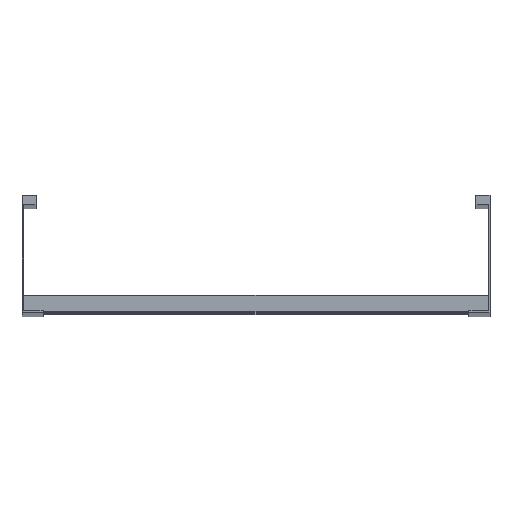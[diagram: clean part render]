
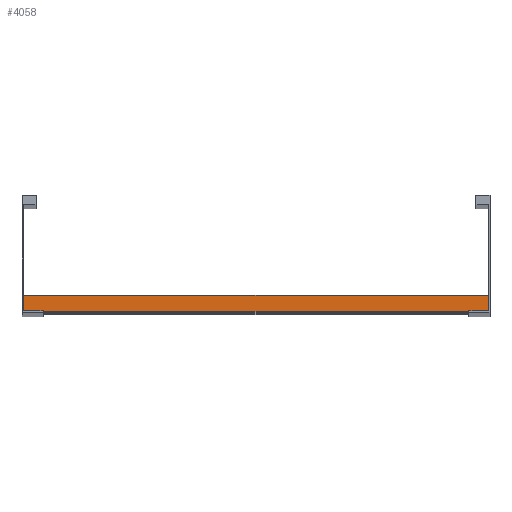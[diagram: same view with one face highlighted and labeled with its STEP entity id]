
A CAD part, top view. The second image highlights one B-rep face of the part: STEP entity #4058.
In plain terms, the highlighted planar face has unit normal (0, 0, 1).
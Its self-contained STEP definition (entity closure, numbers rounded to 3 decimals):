
#156 = ORIENTED_EDGE ( 'NONE', *, *, #9871, .F. ) ;
#276 = DIRECTION ( 'NONE',  ( 0., 0., -1. ) ) ;
#663 = CARTESIAN_POINT ( 'NONE',  ( 298., 20., 20.25 ) ) ;
#777 = LINE ( 'NONE', #663, #1261 ) ;
#1097 = PLANE ( 'NONE',  #5199 ) ;
#1113 = ORIENTED_EDGE ( 'NONE', *, *, #10097, .T. ) ;
#1261 = VECTOR ( 'NONE', #10492, 1000. ) ;
#1642 = VECTOR ( 'NONE', #3335, 1000. ) ;
#1688 = VECTOR ( 'NONE', #5431, 1000. ) ;
#1965 = CARTESIAN_POINT ( 'NONE',  ( 298., 20., 20.25 ) ) ;
#1996 = DIRECTION ( 'NONE',  ( -1., 0., 0. ) ) ;
#2401 = VECTOR ( 'NONE', #1996, 1000. ) ;
#2556 = ORIENTED_EDGE ( 'NONE', *, *, #4713, .T. ) ;
#3335 = DIRECTION ( 'NONE',  ( 0., -1., 0. ) ) ;
#3390 = CARTESIAN_POINT ( 'NONE',  ( 298., 20., 20.25 ) ) ;
#3775 = VERTEX_POINT ( 'NONE', #3390 ) ;
#4058 = ADVANCED_FACE ( 'NONE', ( #6564 ), #1097, .F. ) ;
#4170 = CARTESIAN_POINT ( 'NONE',  ( 298., 0., 20.25 ) ) ;
#4414 = VERTEX_POINT ( 'NONE', #4909 ) ;
#4664 = CARTESIAN_POINT ( 'NONE',  ( 298., 20., 20.25 ) ) ;
#4713 = EDGE_CURVE ( 'NONE', #3775, #5924, #8861, .T. ) ;
#4909 = CARTESIAN_POINT ( 'NONE',  ( -298., 0., 20.25 ) ) ;
#5199 = AXIS2_PLACEMENT_3D ( 'NONE', #1965, #276, #5572 ) ;
#5431 = DIRECTION ( 'NONE',  ( -1., 0., 0. ) ) ;
#5572 = DIRECTION ( 'NONE',  ( 0., 1., 0. ) ) ;
#5835 = CARTESIAN_POINT ( 'NONE',  ( 298., 0., 20.25 ) ) ;
#5924 = VERTEX_POINT ( 'NONE', #8939 ) ;
#6552 = EDGE_LOOP ( 'NONE', ( #1113, #156, #10726, #2556 ) ) ;
#6564 = FACE_OUTER_BOUND ( 'NONE', #6552, .T. ) ;
#8802 = CARTESIAN_POINT ( 'NONE',  ( -298., 20., 20.25 ) ) ;
#8861 = LINE ( 'NONE', #4664, #1688 ) ;
#8939 = CARTESIAN_POINT ( 'NONE',  ( -298., 20., 20.25 ) ) ;
#9432 = LINE ( 'NONE', #5835, #2401 ) ;
#9871 = EDGE_CURVE ( 'NONE', #11143, #4414, #9432, .T. ) ;
#10093 = EDGE_CURVE ( 'NONE', #3775, #11143, #777, .T. ) ;
#10097 = EDGE_CURVE ( 'NONE', #5924, #4414, #11300, .T. ) ;
#10492 = DIRECTION ( 'NONE',  ( 0., -1., 0. ) ) ;
#10726 = ORIENTED_EDGE ( 'NONE', *, *, #10093, .F. ) ;
#11143 = VERTEX_POINT ( 'NONE', #4170 ) ;
#11300 = LINE ( 'NONE', #8802, #1642 ) ;
